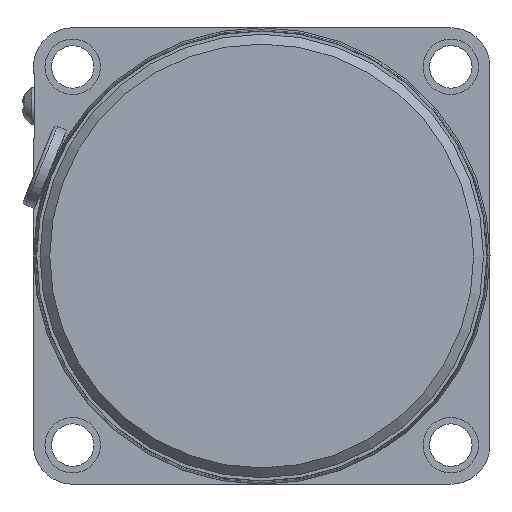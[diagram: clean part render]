
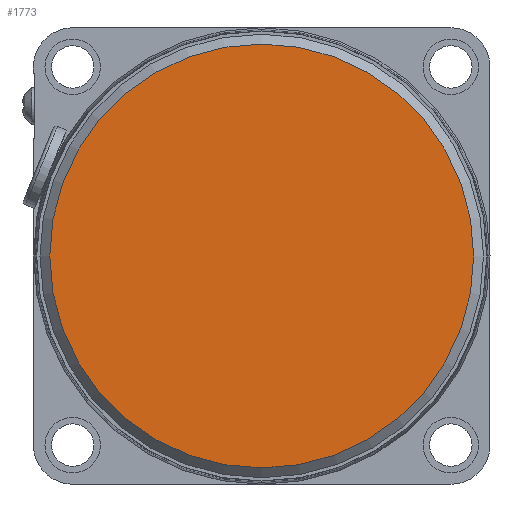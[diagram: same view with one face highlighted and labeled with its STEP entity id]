
A CAD part, left-side view. The second image highlights one B-rep face of the part: STEP entity #1773.
In plain terms, the highlighted planar face has unit normal (-1, 0, 0).
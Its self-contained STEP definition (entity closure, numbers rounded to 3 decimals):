
#140=FACE_OUTER_BOUND('',#256,.T.);
#256=EDGE_LOOP('',(#1233));
#654=CIRCLE('',#1913,32.5);
#755=VERTEX_POINT('',#2744);
#938=EDGE_CURVE('',#755,#755,#654,.T.);
#1233=ORIENTED_EDGE('',*,*,#938,.F.);
#1592=PLANE('',#1914);
#1773=ADVANCED_FACE('',(#140),#1592,.T.);
#1913=AXIS2_PLACEMENT_3D('',#2745,#2186,#2187);
#1914=AXIS2_PLACEMENT_3D('',#2746,#2188,#2189);
#2186=DIRECTION('center_axis',(1.,0.,0.));
#2187=DIRECTION('ref_axis',(0.,1.,0.));
#2188=DIRECTION('center_axis',(-1.,0.,0.));
#2189=DIRECTION('ref_axis',(0.,0.,1.));
#2744=CARTESIAN_POINT('',(0.,32.5,0.));
#2745=CARTESIAN_POINT('Origin',(0.,0.,
0.));
#2746=CARTESIAN_POINT('Origin',(0.,16.25,0.));
